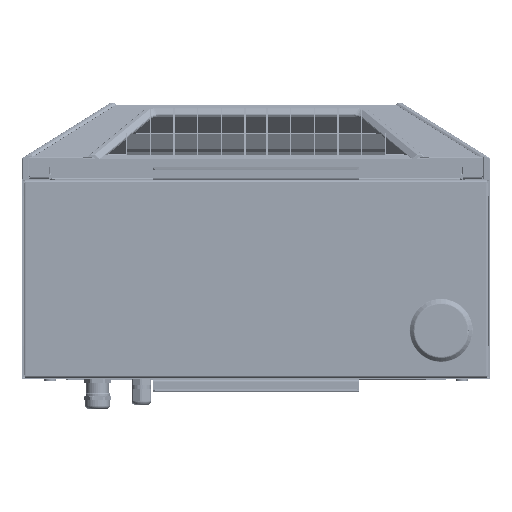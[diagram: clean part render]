
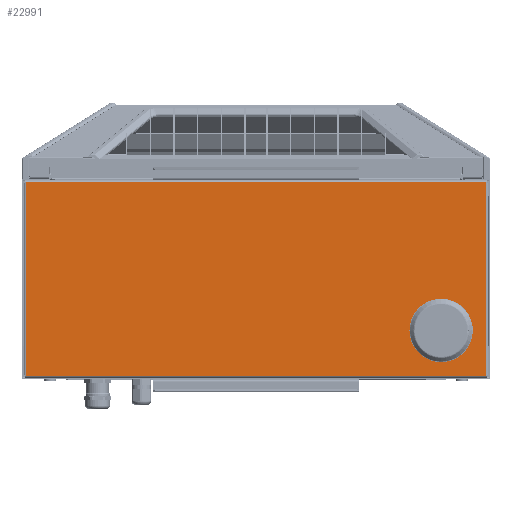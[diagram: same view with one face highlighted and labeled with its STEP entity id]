
A CAD part, front view. The second image highlights one B-rep face of the part: STEP entity #22991.
In plain terms, the highlighted planar face has unit normal (0, -1, 0).
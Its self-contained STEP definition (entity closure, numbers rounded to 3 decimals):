
#21249=DIRECTION('',(1.,0.,0.));
#21250=VECTOR('',#21249,448.);
#21251=CARTESIAN_POINT('',(-224.,0.,3.5));
#21252=LINE('',#21251,#21250);
#21273=CARTESIAN_POINT('',(180.,0.,47.5));
#21274=DIRECTION('',(0.,-1.,0.));
#21275=DIRECTION('',(-1.,0.,0.));
#21276=AXIS2_PLACEMENT_3D('',#21273,#21274,#21275);
#21278=CARTESIAN_POINT('',(180.,0.,47.5));
#21279=DIRECTION('',(0.,-1.,0.));
#21280=DIRECTION('',(-1.,0.,-0.006));
#21281=AXIS2_PLACEMENT_3D('',#21278,#21279,#21280);
#21283=CARTESIAN_POINT('',(180.,0.,47.5));
#21284=DIRECTION('',(0.,-1.,0.));
#21285=DIRECTION('',(1.,0.,0.));
#21286=AXIS2_PLACEMENT_3D('',#21283,#21284,#21285);
#21288=CARTESIAN_POINT('',(180.,0.,47.5));
#21289=DIRECTION('',(0.,-1.,0.));
#21290=DIRECTION('',(1.,0.,0.006));
#21291=AXIS2_PLACEMENT_3D('',#21288,#21289,#21290);
#21305=DIRECTION('',(-1.,0.,0.));
#21306=VECTOR('',#21305,448.);
#21307=CARTESIAN_POINT('',(224.,0.,191.5));
#21308=LINE('',#21307,#21306);
#21361=DIRECTION('',(0.,0.,1.));
#21362=VECTOR('',#21361,188.);
#21363=CARTESIAN_POINT('',(224.,0.,3.5));
#21364=LINE('',#21363,#21362);
#21705=DIRECTION('',(0.,0.,-1.));
#21706=VECTOR('',#21705,188.);
#21707=CARTESIAN_POINT('',(-224.,0.,191.5));
#21708=LINE('',#21707,#21706);
#22459=CARTESIAN_POINT('',(-224.,0.,3.5));
#22460=CARTESIAN_POINT('',(224.,0.,3.5));
#22461=VERTEX_POINT('',#22459);
#22462=VERTEX_POINT('',#22460);
#22463=CARTESIAN_POINT('',(224.,0.,191.5));
#22464=CARTESIAN_POINT('',(-224.,0.,191.5));
#22465=VERTEX_POINT('',#22463);
#22466=VERTEX_POINT('',#22464);
#22467=CARTESIAN_POINT('',(149.172,0.,47.324));
#22468=CARTESIAN_POINT('',(210.828,0.,47.5));
#22469=VERTEX_POINT('',#22467);
#22470=VERTEX_POINT('',#22468);
#22471=CARTESIAN_POINT('',(149.172,0.,47.5));
#22472=VERTEX_POINT('',#22471);
#22473=CARTESIAN_POINT('',(210.828,0.,47.676));
#22474=VERTEX_POINT('',#22473);
#22967=CARTESIAN_POINT('',(0.,0.,0.));
#22968=DIRECTION('',(0.,-1.,0.));
#22969=DIRECTION('',(0.,0.,1.));
#22970=AXIS2_PLACEMENT_3D('',#22967,#22968,#22969);
#22971=PLANE('',#22970);
#22973=ORIENTED_EDGE('',*,*,#22972,.F.);
#22975=ORIENTED_EDGE('',*,*,#22974,.F.);
#22976=ORIENTED_EDGE('',*,*,#22957,.F.);
#22978=ORIENTED_EDGE('',*,*,#22977,.F.);
#22979=EDGE_LOOP('',(#22973,#22975,#22976,#22978));
#22980=FACE_OUTER_BOUND('',#22979,.F.);
#22982=ORIENTED_EDGE('',*,*,#22981,.T.);
#22984=ORIENTED_EDGE('',*,*,#22983,.T.);
#22986=ORIENTED_EDGE('',*,*,#22985,.T.);
#22988=ORIENTED_EDGE('',*,*,#22987,.T.);
#22989=EDGE_LOOP('',(#22982,#22984,#22986,#22988));
#22990=FACE_BOUND('',#22989,.F.);
#22991=ADVANCED_FACE('',(#22980,#22990),#22971,.T.);
#21277=CIRCLE('',#21276,30.828);
#21282=CIRCLE('',#21281,30.828);
#21287=CIRCLE('',#21286,30.828);
#21292=CIRCLE('',#21291,30.828);
#22957=EDGE_CURVE('',#22461,#22462,#21252,.T.);
#22972=EDGE_CURVE('',#22465,#22466,#21308,.T.);
#22974=EDGE_CURVE('',#22462,#22465,#21364,.T.);
#22977=EDGE_CURVE('',#22466,#22461,#21708,.T.);
#22981=EDGE_CURVE('',#22472,#22469,#21277,.T.);
#22983=EDGE_CURVE('',#22469,#22470,#21282,.T.);
#22985=EDGE_CURVE('',#22470,#22474,#21287,.T.);
#22987=EDGE_CURVE('',#22474,#22472,#21292,.T.);
